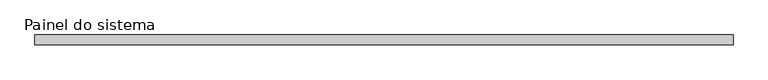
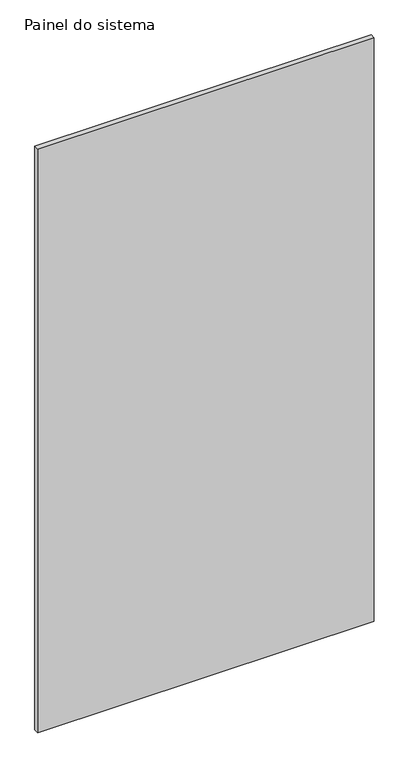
"""IFC4 building model written with IfcOpenShell, lengths in millimetres: plate geometry, Painel do sistema : Envidraçado."""

from ifc_helpers import new_model, si_unit, origin, origin_with_axes, place, context, project, spatial, polyline, outline, extrude, source, transform, mapped, element, save


def painel_do_sistema_ca16d0eb(model_context):
    return source(origin(), model_context, "Body", "SweptSolid", [
        extrude(outline(polyline([(720.0000002, -10.0), (-720.0000002, -10.0), (-720.0000002, 10.0), (720.0000002, 10.0), (720.0000002, -10.0)])), origin_with_axes(), (0.0, 0.0, 1.0), 2640.0),
    ])


if __name__ == "__main__":
    model = new_model("IFC4")
    model_context = context("Model", 3, world=origin())
    ifc_project = project(units=[si_unit("LENGTHUNIT", "METRE", prefix="MILLI")], contexts=[model_context])
    site = spatial("IfcSite", under=ifc_project)
    building = spatial("IfcBuilding", under=site)
    placement = place(None, origin())
    painel_do_sistema_shape = painel_do_sistema_ca16d0eb(model_context)
    element("IfcPlate", 1, ObjectType="Painel do sistema : Envidraçado", at=placement, inside=building, context=model_context, shape_type="MappedRepresentation", body=[
        mapped(painel_do_sistema_shape, transform((0.0, 0.0, 0.0), x_axis=(1.0, 0.0, 0.0), y_axis=(0.0, 1.0, 0.0), z_axis=(0.0, 0.0, 1.0))),
    ])
    save(model, "model.ifc")
